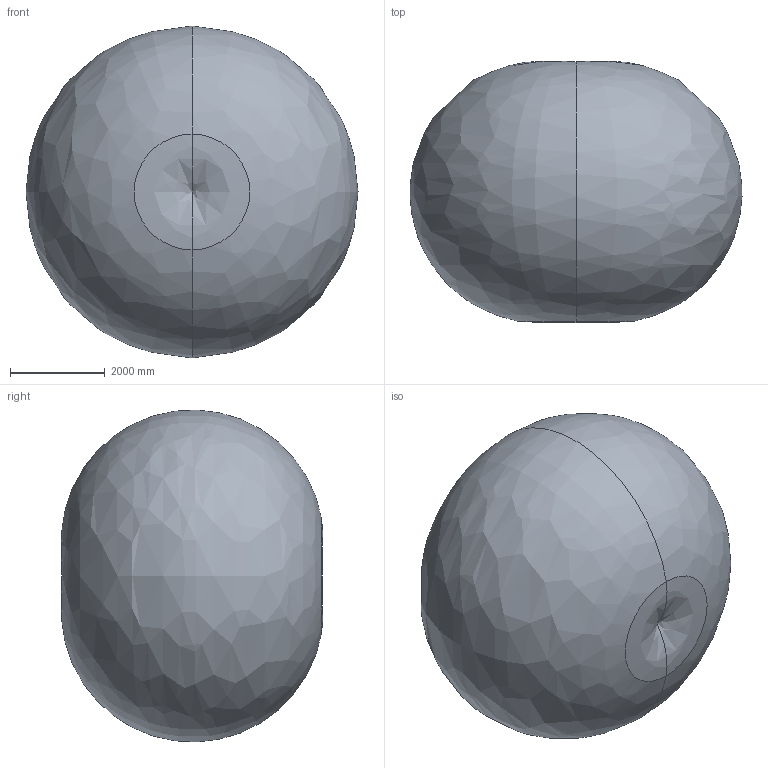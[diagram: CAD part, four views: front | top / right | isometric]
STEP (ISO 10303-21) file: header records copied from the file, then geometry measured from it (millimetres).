
FILE_DESCRIPTION (( 'STEP AP214' ), '1' );
FILE_NAME ('阹陎暱R350-100-DW-E.STEP', '2020-12-01T11:19:31', ( '' ), ( '' ), 'SwSTEP 2.0', 'SolidWorks 2016', '' );
FILE_SCHEMA (( 'AUTOMOTIVE_DESIGN' ));
Length unit declared in the file: millimetre
Products named in the file (12): 阹陎暱R350-100-DW-E; 阹陎暱R350-100-DW-E-11_1; 阹陎暱R350-100-DW-E-02_1; 阹陎暱R350-100-DW-E-06_1; 阹陎暱R350-100-DW-E-01_1; 阹陎暱R350-100-DW-E-12_1; 阹陎暱R350-100-DW-E-04_1; 阹陎暱R350-100-DW-E-10_1; 阹陎暱R350-100-DW-E-05_1; 阹陎暱R350-100-DW-E-08_1; 阹陎暱R350-100-DW-E-03_1; 阹陎暱R350-100-DW-E-07_1
Assembly tree (11 placements, depth 2):
  阹陎暱R350-100-DW-E
    阹陎暱R350-100-DW-E-01_1
    阹陎暱R350-100-DW-E-02_1
    阹陎暱R350-100-DW-E-03_1
    阹陎暱R350-100-DW-E-04_1
    阹陎暱R350-100-DW-E-05_1
    阹陎暱R350-100-DW-E-06_1
    阹陎暱R350-100-DW-E-07_1
    阹陎暱R350-100-DW-E-08_1
    阹陎暱R350-100-DW-E-10_1
    阹陎暱R350-100-DW-E-11_1
    阹陎暱R350-100-DW-E-12_1
Bounding box: 7010.33 x 5515.17 x 7009.89 mm (x, y, z)
Volume: 135548012218.5 mm3; surface area: 184913235.7 mm2
Topology: 1 solids, 805 shells, 6858 faces, 22128 edges, 15827 vertices
Faces by surface type: cylinder 2612, plane 2035, bspline 1612, cone 378, torus 206, sphere 15
Entity records: 473779 total; most frequent: CARTESIAN_POINT 297353, ORIENTED_EDGE 35773, DIRECTION 31611, EDGE_CURVE 21972, VERTEX_POINT 15827, AXIS2_PLACEMENT_3D 11398, LINE 8815, VECTOR 8815
